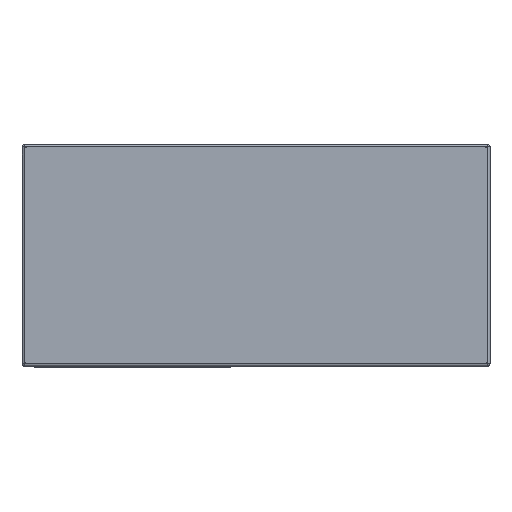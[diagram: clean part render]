
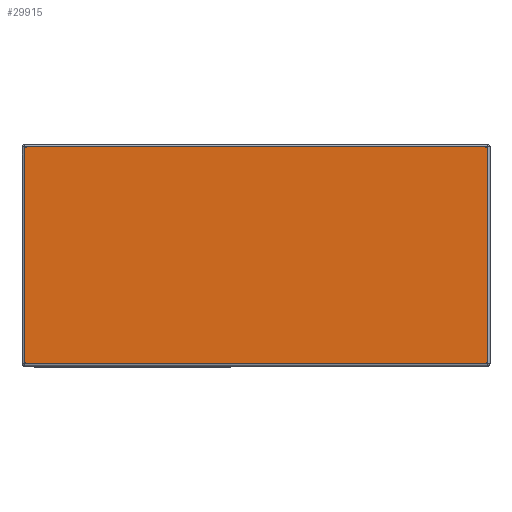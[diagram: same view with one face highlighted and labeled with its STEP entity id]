
A CAD part, top view. The second image highlights one B-rep face of the part: STEP entity #29915.
In plain terms, the highlighted planar face has unit normal (0, 0, 1).
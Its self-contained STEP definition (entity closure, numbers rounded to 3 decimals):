
#674 = VECTOR ( 'NONE', #834, 1000. ) ;
#834 = DIRECTION ( 'NONE',  ( 0., 1., 0. ) ) ;
#2355 = CARTESIAN_POINT ( 'NONE',  ( -45., 44., 271. ) ) ;
#4869 = PLANE ( 'NONE',  #18321 ) ;
#5082 = VECTOR ( 'NONE', #28469, 1000. ) ;
#7508 = DIRECTION ( 'NONE',  ( 1., 0., 0. ) ) ;
#8672 = DIRECTION ( 'NONE',  ( 1., 0., 0. ) ) ;
#9588 = VERTEX_POINT ( 'NONE', #28553 ) ;
#10712 = EDGE_CURVE ( 'NONE', #9588, #24454, #25178, .T. ) ;
#11263 = VECTOR ( 'NONE', #8672, 1000. ) ;
#12021 = ORIENTED_EDGE ( 'NONE', *, *, #10712, .T. ) ;
#12101 = LINE ( 'NONE', #19094, #11263 ) ;
#12530 = VERTEX_POINT ( 'NONE', #21015 ) ;
#13116 = VECTOR ( 'NONE', #32820, 1000. ) ;
#13929 = LINE ( 'NONE', #19738, #13116 ) ;
#15324 = CARTESIAN_POINT ( 'NONE',  ( 0., 0., 271. ) ) ;
#17245 = FACE_OUTER_BOUND ( 'NONE', #25456, .T. ) ;
#18321 = AXIS2_PLACEMENT_3D ( 'NONE', #15324, #23194, #7508 ) ;
#18604 = EDGE_CURVE ( 'NONE', #12530, #31062, #12101, .T. ) ;
#18793 = ORIENTED_EDGE ( 'NONE', *, *, #18604, .T. ) ;
#19094 = CARTESIAN_POINT ( 'NONE',  ( 145., -44., 271. ) ) ;
#19738 = CARTESIAN_POINT ( 'NONE',  ( -44., -45., 271. ) ) ;
#21015 = CARTESIAN_POINT ( 'NONE',  ( -44., -44., 271. ) ) ;
#21566 = LINE ( 'NONE', #24303, #674 ) ;
#22659 = ORIENTED_EDGE ( 'NONE', *, *, #22941, .T. ) ;
#22941 = EDGE_CURVE ( 'NONE', #31062, #9588, #21566, .T. ) ;
#23194 = DIRECTION ( 'NONE',  ( 0., 0., 1. ) ) ;
#23449 = CARTESIAN_POINT ( 'NONE',  ( 144., -44., 271. ) ) ;
#24303 = CARTESIAN_POINT ( 'NONE',  ( 144., 45., 271. ) ) ;
#24454 = VERTEX_POINT ( 'NONE', #27067 ) ;
#25178 = LINE ( 'NONE', #2355, #5082 ) ;
#25456 = EDGE_LOOP ( 'NONE', ( #18793, #22659, #12021, #26920 ) ) ;
#26920 = ORIENTED_EDGE ( 'NONE', *, *, #30746, .T. ) ;
#27067 = CARTESIAN_POINT ( 'NONE',  ( -44., 44., 271. ) ) ;
#28469 = DIRECTION ( 'NONE',  ( -1., 0., 0. ) ) ;
#28553 = CARTESIAN_POINT ( 'NONE',  ( 144., 44., 271. ) ) ;
#29915 = ADVANCED_FACE ( 'NONE', ( #17245 ), #4869, .T. ) ;
#30746 = EDGE_CURVE ( 'NONE', #24454, #12530, #13929, .T. ) ;
#31062 = VERTEX_POINT ( 'NONE', #23449 ) ;
#32820 = DIRECTION ( 'NONE',  ( 0., -1., 0. ) ) ;
